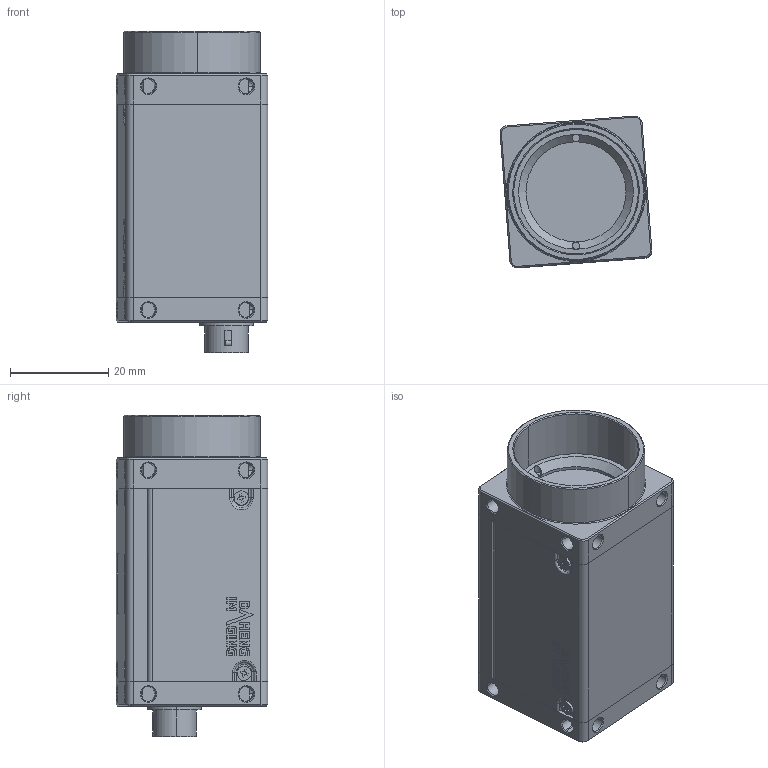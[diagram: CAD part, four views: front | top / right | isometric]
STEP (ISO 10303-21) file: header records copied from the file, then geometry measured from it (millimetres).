
FILE_DESCRIPTION (( 'STEP AP203' ), '1' );
FILE_NAME ('me2s_poe_6phc_user_a1.0.0.STEP', '2023-05-22T07:18:45', ( '' ), ( '' ), 'SwSTEP 2.0', 'SolidWorks 2016', '' );
FILE_SCHEMA (( 'CONFIG_CONTROL_DESIGN' ));
Products named in the file (1): me2s_poe_6phc_user_a1.0.0
Bounding box: 30.9 x 30.9 x 65.53 mm (x, y, z)
Volume: 39222.5 mm3; surface area: 26345.4 mm2
Topology: 16 solids, 20 shells, 1799 faces, 4798 edges, 3097 vertices
Faces by surface type: plane 1007, cylinder 624, cone 93, bspline 39, torus 36
Entity records: 61898 total; most frequent: CARTESIAN_POINT 17983, ORIENTED_EDGE 9592, DIRECTION 8655, EDGE_CURVE 4796, VERTEX_POINT 3097, LINE 3031, VECTOR 3031, AXIS2_PLACEMENT_3D 2812
